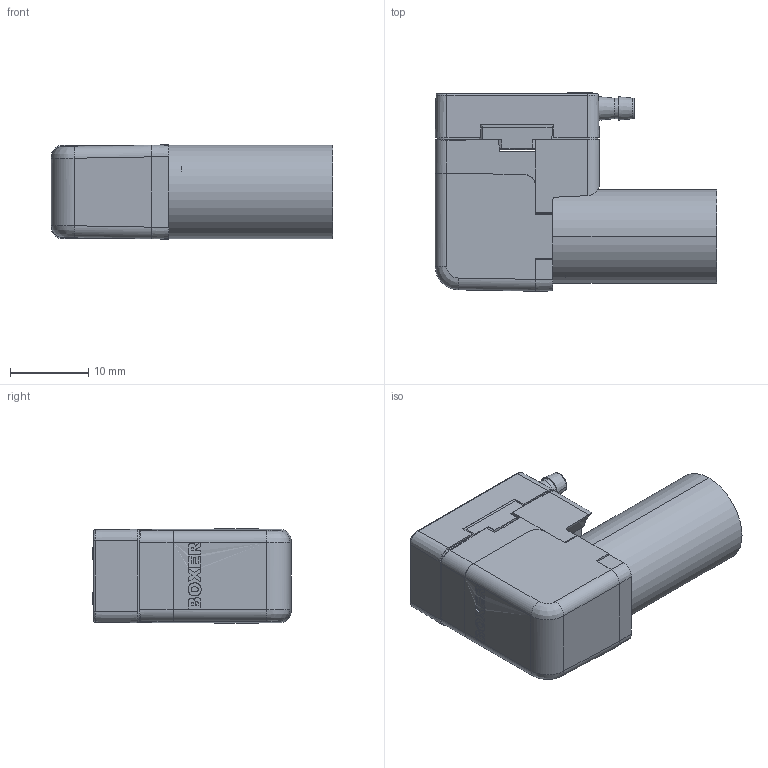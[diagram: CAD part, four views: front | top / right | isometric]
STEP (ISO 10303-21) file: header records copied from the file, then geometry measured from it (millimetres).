
FILE_DESCRIPTION (( 'STEP AP203' ), '1' );
FILE_NAME ('20K Coreless.STEP', '2016-01-09T08:44:19', ( '' ), ( '' ), 'SwSTEP 2.0', 'SolidWorks 2014', '' );
FILE_SCHEMA (( 'CONFIG_CONTROL_DESIGN' ));
Length unit declared in the file: metre
Products named in the file (1): 20K Coreless
Bounding box: 36.05 x 25.4 x 12.08 mm (x, y, z)
Surface area: 3753.6 mm2 (no closed solid volume)
Topology: 0 solids, 12 shells, 325 faces, 1059 edges, 747 vertices
Faces by surface type: plane 167, cylinder 64, cone 48, bspline 46
Entity records: 15159 total; most frequent: CARTESIAN_POINT 6331, ORIENTED_EDGE 1772, DIRECTION 1622, EDGE_CURVE 1057, VERTEX_POINT 747, LINE 604, VECTOR 604, AXIS2_PLACEMENT_3D 509
